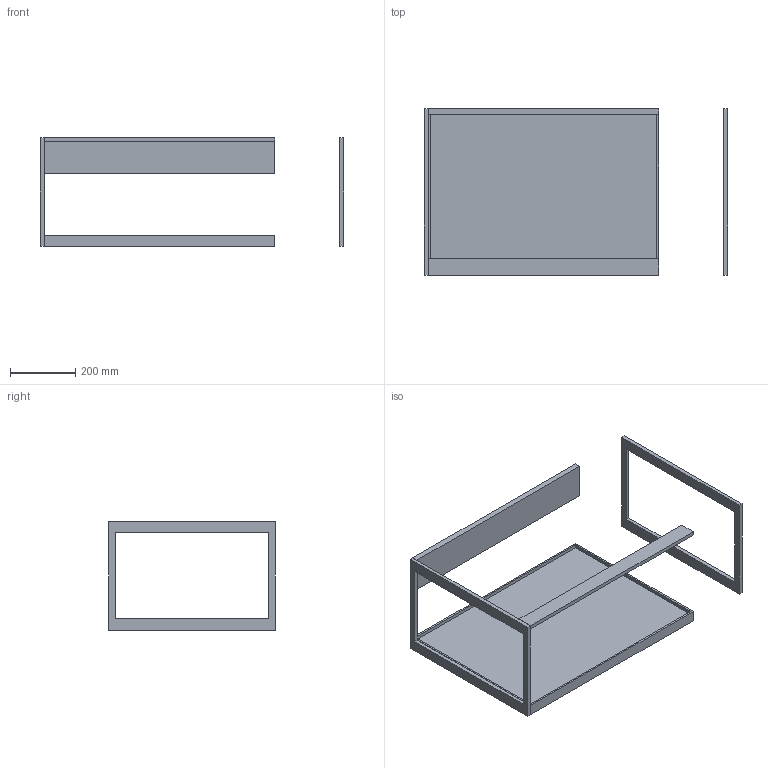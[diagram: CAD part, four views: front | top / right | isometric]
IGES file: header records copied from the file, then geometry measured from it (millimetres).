
Start section: Data from Parasolid IGES Translator 19.0.9, Copyright(c) 2006 Siemens PL M Software. All Rights Reserved.
Global section: file name: noorth-FJ-H 33,5 D 51,2 W 72_6691.igs; native system: By Siemens PLM Incorporated; preprocessor: XPlus GENERIC/IGES 19.0.9; author: Noname; organization: Noname; date: 20200507.120931; units: metre
Bounding box: 932 x 512 x 335 mm (x, y, z)
Volume: 11778478.6 mm3; surface area: 1375057.2 mm2
Topology: 5 solids, 5 shells, 43 faces, 96 edges, 64 vertices
Faces by surface type: plane 43
